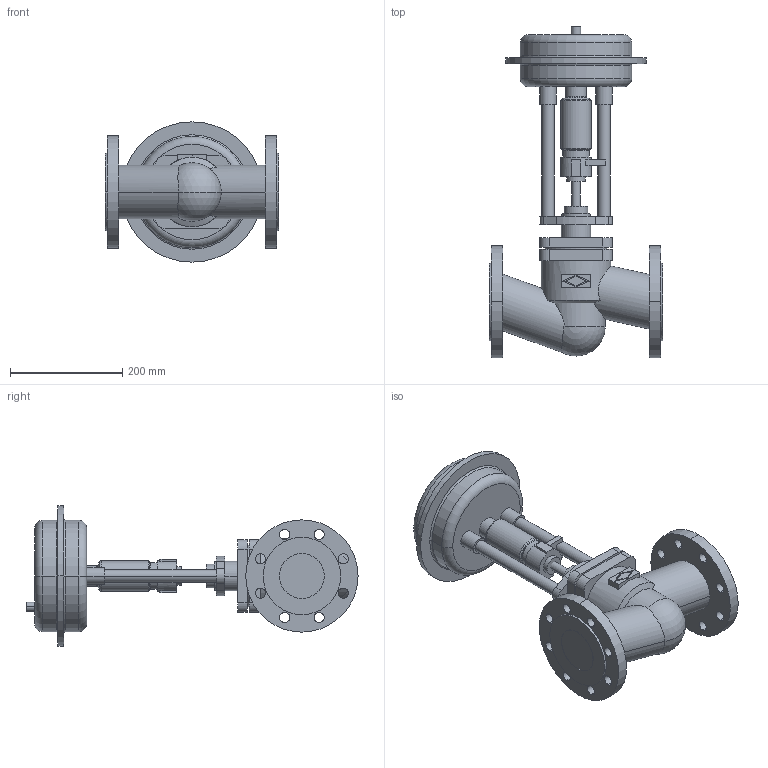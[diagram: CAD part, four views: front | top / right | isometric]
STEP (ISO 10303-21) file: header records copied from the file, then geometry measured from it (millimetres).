
FILE_DESCRIPTION(('OneSpaceDesigner STEP Export'),'2;1');
FILE_NAME('c000000362.stp','2005-02-14T14:00:24',(''),(''),'OneSpace Designer STEP processor (Jan. 2003) for AP203(Solid Model)','OneSpace Designer 12.01D 09-Jul-2004 (C) CoCreate Software GmbH','');
FILE_SCHEMA(('CONFIG_CONTROL_DESIGN'));
Length unit declared in the file: millimetre
Products named in the file (2): 1; 2
Bounding box: 310 x 591.5 x 250 mm (x, y, z)
Volume: 8449431.3 mm3; surface area: 543401.3 mm2
Topology: 2 solids, 2 shells, 197 faces, 483 edges, 315 vertices
Faces by surface type: cylinder 100, plane 73, torus 16, cone 6, sphere 2
Entity records: 5584 total; most frequent: CARTESIAN_POINT 1127, ORIENTED_EDGE 962, DIRECTION 791, EDGE_CURVE 481, VERTEX_POINT 315, AXIS2_PLACEMENT_3D 288, EDGE_LOOP 256, VECTOR 215
